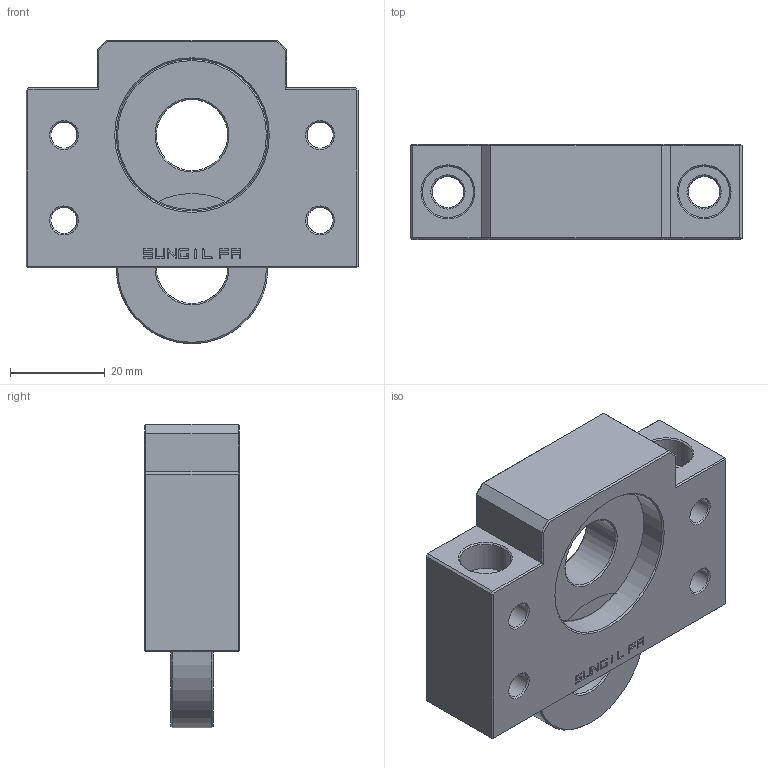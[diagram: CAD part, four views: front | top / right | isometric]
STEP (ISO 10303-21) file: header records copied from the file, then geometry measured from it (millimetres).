
FILE_DESCRIPTION( ( 'Unknown' ), '1' );
FILE_NAME( 'D:/3D/憮んお嶸棉/20060119/SBF TYPE/SBF15/SBF15(ASSM).stp', 'Unknown', ( 'Unknown' ), ( 'Unknown' ), 'XStep 1.0', 'Unknown', ' ' );
FILE_SCHEMA( ( 'CONFIG_CONTROL_DESIGN' ) );
Length unit declared in the file: millimetre
Products named in the file (3): Assem1; SBF15(housing); bearing(6002ZZ)
Bounding box: 70 x 20 x 64 mm (x, y, z)
Surface area: 31693.7 mm2
Topology: 4 solids, 4 shells, 798 faces, 2166 edges, 1416 vertices
Faces by surface type: plane 424, cylinder 334, cone 40
Full cylindrical faces by diameter (mm): 5.5 x16, 6.6 x4, 10.8 x4, 15 x2, 32 x4
Entity records: 13012 total; most frequent: CARTESIAN_POINT 2658, DIRECTION 2180, ORIENTED_EDGE 2076, EDGE_CURVE 1038, AXIS2_PLACEMENT_3D 748, VERTEX_POINT 698, LINE 684, VECTOR 684
